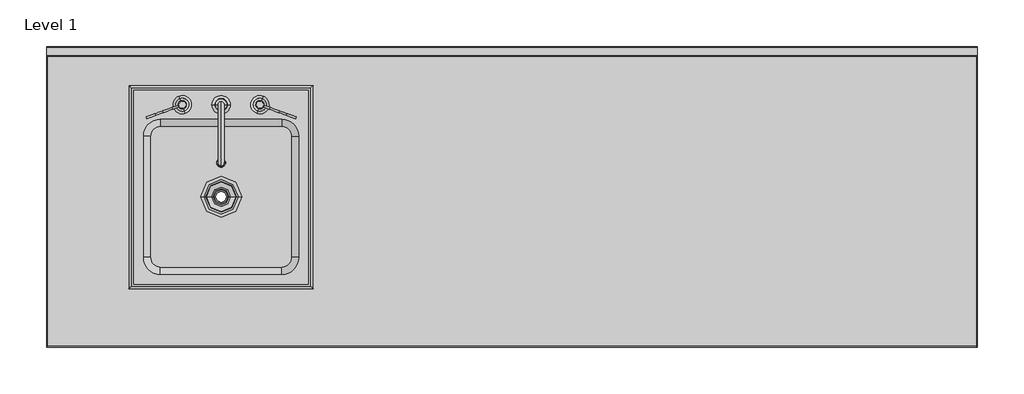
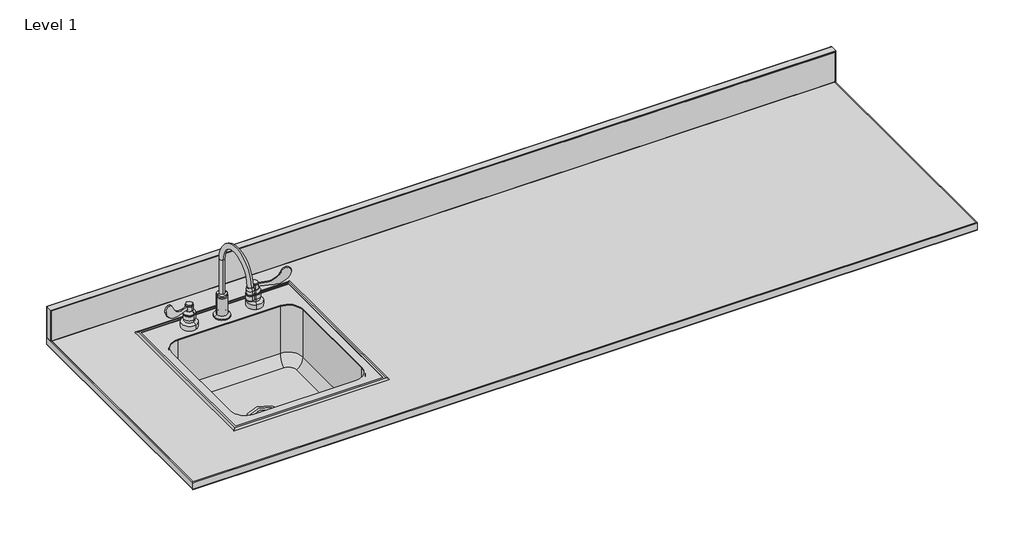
# One storey, incomplete: 3 flow terminals, 2 furniture elements.
"""IFC4 building model written with IfcOpenShell, lengths in millimetres."""

from ifc_helpers import new_model, si_unit, point, frame, frame_2d, origin, place, context, project, spatial, polyline, circle_curve, ellipse_curve, trimmed, segment, composite_curve, outline, extrude, transform, mapped, element, save
from ifc_brep_helpers import plane_surface, cylinder_surface, advanced_brep
from components import ssg_drain_cup_strainer_sst_default_97fc0a7e, ssg_faucet_lab_deck_mounted_cpb_c43a80bb, flow_terminal_f9220a25, ssg_countertop_splash_lam_default_1a4fc160

model = new_model("IFC4")

# Units and contexts
model_context = context("Model", 3, world=origin())
ifc_project = project(units=[si_unit("LENGTHUNIT", "METRE", prefix="MILLI")], contexts=[model_context])

# Site, building, storey
site = spatial("IfcSite", under=ifc_project)
building = spatial("IfcBuilding", under=site)
storey = spatial("IfcBuildingStorey", under=building, Name="Level 1", Elevation=0.0)

# Flow terminals
placement = place(None, origin())
ssg_drain_cup_strainer_sst_default_shape = ssg_drain_cup_strainer_sst_default_97fc0a7e(model_context)
element("IfcFlowTerminal", 1, ObjectType="SSG_Drain_Cup_Strainer_SST : Default", at=placement, inside=storey, context=model_context, shape_type="MappedRepresentation", body=[
    mapped(ssg_drain_cup_strainer_sst_default_shape, transform((209100.0491412, 470.6643716, 828.9928957), x_axis=(1.0, 0.0, 0.0), y_axis=(0.0, 1.0, 0.0), z_axis=(0.0, 0.0, 1.0))),
])
ssg_faucet_lab_deck_mounted_cpb_shape = ssg_faucet_lab_deck_mounted_cpb_c43a80bb(model_context)
element("IfcFlowTerminal", 2, ObjectType="SSG_Faucet_Lab_Deck_Mounted_CPB : 3 Piece - 6\" Swing Gooseneck w/ Blade Handles", at=placement, inside=storey, context=model_context, shape_type="MappedRepresentation", body=[
    mapped(ssg_faucet_lab_deck_mounted_cpb_shape, transform((209100.0491412, 711.9643716, 866.775), x_axis=(1.0, 0.0, 0.0), y_axis=(0.0, 1.0, 0.0), z_axis=(0.0, 0.0, 1.0))),
])
flow_terminal_shape = flow_terminal_f9220a25(model_context)
element("IfcFlowTerminal", 3, ObjectType="SSG_Sink_Single_Bowl_Ledge_SST : 19\" x 21\"", at=placement, inside=storey, context=model_context, shape_type="MappedRepresentation", body=[
    mapped(flow_terminal_shape, transform((209100.0491412, 496.0643716, 863.6), x_axis=(1.0, 0.0, 0.0), y_axis=(0.0, 1.0, 0.0), z_axis=(0.0, 0.0, 1.0))),
])

# Furniture
element("IfcFurniture", 4, ObjectType="SSG_Countertop_LAM : Default", at=placement, inside=storey, context=model_context, shape_type="SolidModel", body=[
    advanced_brep(
    [(211081.2491412, 864.3643716, 861.600061), (211079.2647662, 862.3799966, 863.6), (211079.2647662, 78.9487466, 863.6), (211081.2491412, 76.9643716, 861.600061), (211081.2491412, 76.9643716, 840.199939), (211081.2491412, 864.3643716, 840.199939), (211079.2647662, 78.9487466, 838.2), (211079.2647662, 862.3799966, 838.2), (208644.8335162, 78.9487466, 863.6), (208642.8491412, 76.9643716, 861.600061), (208642.8491412, 76.9643716, 840.199939), (208644.8335162, 78.9487466, 838.2), (208644.8335162, 862.3799966, 863.6), (208642.8491412, 864.3643716, 861.600061), (208642.8491412, 864.3643716, 840.199939), (208644.8335162, 862.3799966, 838.2)],
    [
        (0, 1, ellipse_curve(frame((211079.2491412, 862.3643716, 861.600061), z_axis=(0.7071067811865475, -0.7071067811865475, 0.0), x_axis=(0.7071067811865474, 0.7071067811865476, 0.0)), 2.8284271, 2.0)),
        (1, 2),
        (2, 3, ellipse_curve(frame((211079.2491412, 78.9643716, 861.600061), z_axis=(0.7071067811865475, 0.7071067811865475, 0.0), x_axis=(-0.7071067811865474, 0.7071067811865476, 0.0)), 2.8284271, 2.0)),
        (3, 0),
        (3, 4),
        (4, 5),
        (5, 0),
        (4, 6, ellipse_curve(frame((211079.2491412, 78.9643716, 840.199939), z_axis=(0.7071067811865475, 0.7071067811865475, 0.0), x_axis=(-0.7071067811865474, 0.7071067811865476, 0.0)), 2.8284271, 2.0)),
        (6, 7),
        (7, 5, ellipse_curve(frame((211079.2491412, 862.3643716, 840.199939), z_axis=(0.7071067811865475, -0.7071067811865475, 0.0), x_axis=(0.7071067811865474, 0.7071067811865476, 0.0)), 2.8284271, 2.0)),
        (1, 7),
        (6, 2),
        (2, 8),
        (8, 9, ellipse_curve(frame((208644.8491412, 78.9643716, 861.600061), z_axis=(0.7071067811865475, -0.7071067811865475, 0.0), x_axis=(0.7071067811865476, 0.7071067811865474, 0.0)), 2.8284271, 2.0)),
        (9, 3),
        (9, 10),
        (10, 4),
        (10, 11, ellipse_curve(frame((208644.8491412, 78.9643716, 840.199939), z_axis=(0.7071067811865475, -0.7071067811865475, 0.0), x_axis=(0.7071067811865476, 0.7071067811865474, 0.0)), 2.8284271, 2.0)),
        (11, 6),
        (11, 8),
        (8, 12),
        (12, 13, ellipse_curve(frame((208644.8491412, 862.3643716, 861.600061), z_axis=(-0.7071067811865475, -0.7071067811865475, 0.0), x_axis=(0.7071067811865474, -0.7071067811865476, 0.0)), 2.8284271, 2.0)),
        (13, 9),
        (13, 14),
        (14, 10),
        (14, 15, ellipse_curve(frame((208644.8491412, 862.3643716, 840.199939), z_axis=(-0.7071067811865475, -0.7071067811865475, 0.0), x_axis=(0.7071067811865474, -0.7071067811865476, 0.0)), 2.8284271, 2.0)),
        (15, 11),
        (15, 12),
        (0, 13),
        (12, 1),
        (5, 14),
        (7, 15),
    ],
    [
        cylinder_surface(frame((211079.2491412, 862.3799966, 861.600061), z_axis=(0.0, 1.0, 0.0), x_axis=(1.0, 0.0, 0.0)), 2.0),
        plane_surface(frame((211081.2491412, 864.3643716, 861.600061), z_axis=(1.0, 0.0, 0.0), x_axis=(0.0, -1.0, 0.0))),
        cylinder_surface(frame((211079.2491412, 862.3799966, 840.199939), z_axis=(0.0, 1.0, 0.0), x_axis=(1.0, 0.0, 0.0)), 2.0),
        plane_surface(frame((211079.2647662, 862.3799966, 838.2), z_axis=(-1.0, 0.0, 0.0), x_axis=(0.0, -1.0, 0.0))),
        cylinder_surface(frame((211079.2647662, 78.9643716, 861.600061), z_axis=(1.0, 0.0, 0.0), x_axis=(0.0, -1.0, 0.0)), 2.0),
        plane_surface(frame((211081.2491412, 76.9643716, 861.600061), z_axis=(0.0, -1.0, 0.0), x_axis=(-1.0, 0.0, 0.0))),
        cylinder_surface(frame((211079.2647662, 78.9643716, 840.199939), z_axis=(1.0, 0.0, 0.0), x_axis=(0.0, -1.0, 0.0)), 2.0),
        plane_surface(frame((211079.2647662, 78.9487466, 838.2), z_axis=(0.0, 1.0, 0.0), x_axis=(-1.0, 0.0, 0.0))),
        cylinder_surface(frame((208644.8491412, 78.9487466, 861.600061), z_axis=(0.0, -1.0, 0.0), x_axis=(-1.0, 0.0, 0.0)), 2.0),
        plane_surface(frame((208642.8491412, 76.9643716, 861.600061), z_axis=(-1.0, 0.0, 0.0), x_axis=(0.0, 1.0, 0.0))),
        cylinder_surface(frame((208644.8491412, 78.9487466, 840.199939), z_axis=(0.0, -1.0, 0.0), x_axis=(-1.0, 0.0, 0.0)), 2.0),
        plane_surface(frame((208644.8335162, 78.9487466, 838.2), z_axis=(1.0, 0.0, 0.0), x_axis=(0.0, 1.0, 0.0))),
        cylinder_surface(frame((208644.8335162, 862.3643716, 861.600061), z_axis=(-1.0, 0.0, 0.0), x_axis=(0.0, 1.0, 0.0)), 2.0),
        plane_surface(frame((208642.8491412, 864.3643716, 861.600061), z_axis=(0.0, 1.0, 0.0), x_axis=(1.0, 0.0, 0.0))),
        cylinder_surface(frame((208644.8335162, 862.3643716, 840.199939), z_axis=(-1.0, 0.0, 0.0), x_axis=(0.0, 1.0, 0.0)), 2.0),
        plane_surface(frame((208644.8335162, 862.3799966, 838.2), z_axis=(0.0, -1.0, 0.0), x_axis=(1.0, 0.0, 0.0))),
    ],
    [
        (0, [[1, 2, 3, 4]]),
        (1, [[-4, 5, 6, 7]]),
        (2, [[-6, 8, 9, 10]]),
        (3, [[-2, 11, -9, 12]]),
        (4, [[-3, 13, 14, 15]]),
        (5, [[-5, -15, 16, 17]]),
        (6, [[-8, -17, 18, 19]]),
        (7, [[-12, -19, 20, -13]]),
        (8, [[-14, 21, 22, 23]]),
        (9, [[-16, -23, 24, 25]]),
        (10, [[-18, -25, 26, 27]]),
        (11, [[-20, -27, 28, -21]]),
        (12, [[-1, 29, -22, 30]]),
        (13, [[-7, 31, -24, -29]]),
        (14, [[-10, 32, -26, -31]]),
        (15, [[-11, -30, -28, -32]]),
    ],
),
    extrude(outline(polyline([(211079.2647662, 862.3799966), (211079.2647662, 78.9487466), (208644.8335162, 78.9487466), (208644.8335162, 862.3799966), (211079.2647662, 862.3799966)]), holes=[composite_curve([segment(polyline([(208893.6741412, 629.4143716), (208893.6741412, 311.9143716)]), True, "CONTINUOUS"), segment(trimmed(circle_curve(frame_2d((208941.2991412, 311.9143716)), 47.625), [point((208893.6741412, 311.9143716))], [point((208941.2991412, 264.2893716))], True, "CARTESIAN"), True, "CONTINUOUS"), segment(polyline([(208941.2991412, 264.2893716), (209258.7991412, 264.2893716)]), True, "CONTINUOUS"), segment(trimmed(circle_curve(frame_2d((209258.7991412, 311.9143716)), 47.625), [point((209258.7991412, 264.2893716))], [point((209306.4241412, 311.9143716))], True, "CARTESIAN"), True, "CONTINUOUS"), segment(polyline([(209306.4241412, 311.9143716), (209306.4241412, 629.4143716)]), True, "CONTINUOUS"), segment(trimmed(circle_curve(frame_2d((209258.7991412, 629.4143716)), 47.625), [point((209306.4241412, 629.4143716))], [point((209258.7991412, 677.0393716))], True, "CARTESIAN"), True, "CONTINUOUS"), segment(polyline([(209258.7991412, 677.0393716), (208941.2991412, 677.0393716)]), True, "CONTINUOUS"), segment(trimmed(circle_curve(frame_2d((208941.2991412, 629.4143716)), 47.625), [point((208941.2991412, 677.0393716))], [point((208893.6741412, 629.4143716))], True, "CARTESIAN"), True, "CONTINUOUS")], self_intersect=False)]), frame((0.0, 0.0, 838.2), z_axis=(0.0, 0.0, 1.0), x_axis=(1.0, 0.0, 0.0)), (0.0, 0.0, 1.0), 25.4),
])
ssg_countertop_splash_lam_default_shape = ssg_countertop_splash_lam_default_1a4fc160(model_context)
element("IfcFurniture", 5, ObjectType="SSG_Countertop_Splash_LAM : Default", at=placement, inside=storey, context=model_context, shape_type="MappedRepresentation", body=[
    mapped(ssg_countertop_splash_lam_default_shape, transform((209862.0491412, 851.6643716, -50.8), x_axis=(1.0, 0.0, 0.0), y_axis=(0.0, 1.0, 0.0), z_axis=(0.0, 0.0, 1.0))),
])

save(model, "model.ifc")
